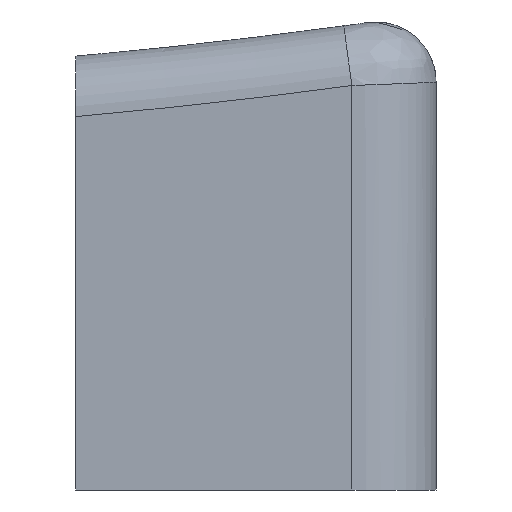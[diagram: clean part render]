
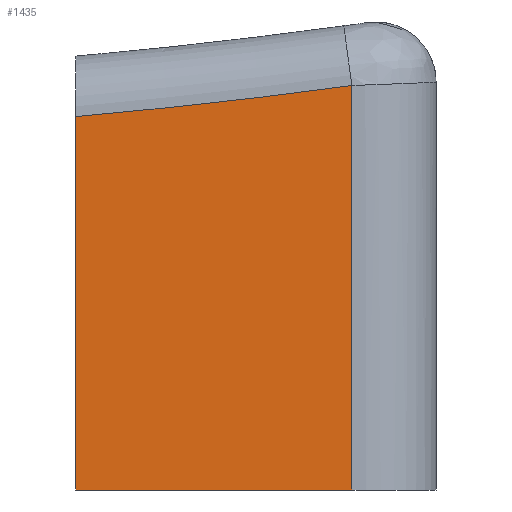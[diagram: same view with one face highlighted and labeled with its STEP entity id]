
A CAD part, front view. The second image highlights one B-rep face of the part: STEP entity #1435.
In plain terms, the highlighted planar face has unit normal (0, -1, 0).
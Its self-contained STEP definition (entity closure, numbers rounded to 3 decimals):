
#32 = PLANE('',#33);
#33 = AXIS2_PLACEMENT_3D('',#34,#35,#36);
#34 = CARTESIAN_POINT('',(90.15,-80.,-10.));
#35 = DIRECTION('',(1.,0.,-0.));
#36 = DIRECTION('',(0.,0.,1.));
#43 = PLANE('',#44);
#44 = AXIS2_PLACEMENT_3D('',#45,#46,#47);
#45 = CARTESIAN_POINT('',(-150.,-70.,0.));
#46 = DIRECTION('',(0.,0.,1.));
#47 = DIRECTION('',(1.,0.,-0.));
#192 = VERTEX_POINT('',#193);
#193 = CARTESIAN_POINT('',(90.15,-70.,62.031));
#245 = TOROIDAL_SURFACE('',#246,1010.,10.);
#246 = AXIS2_PLACEMENT_3D('',#247,#248,#249);
#247 = CARTESIAN_POINT('',(0.,-60.,1068.));
#248 = DIRECTION('',(0.,-1.,-0.));
#249 = DIRECTION('',(-0.136,0.,-0.991));
#276 = EDGE_CURVE('',#277,#192,#279,.T.);
#277 = VERTEX_POINT('',#278);
#278 = CARTESIAN_POINT('',(90.15,-70.,0.));
#279 = SURFACE_CURVE('',#280,(#284,#290),.PCURVE_S1.);
#280 = LINE('',#281,#282);
#281 = CARTESIAN_POINT('',(90.15,-70.,-5.));
#282 = VECTOR('',#283,1.);
#283 = DIRECTION('',(0.,0.,1.));
#284 = PCURVE('',#32,#285);
#285 = DEFINITIONAL_REPRESENTATION('',(#286),#289);
#286 = B_SPLINE_CURVE_WITH_KNOTS('',1,(#287,#288),.UNSPECIFIED.,.F.,.F.,
  (2,2),(5.,72.198),.PIECEWISE_BEZIER_KNOTS.);
#287 = CARTESIAN_POINT('',(10.,-10.));
#288 = CARTESIAN_POINT('',(77.198,-10.));
#289 = ( GEOMETRIC_REPRESENTATION_CONTEXT(2) 
PARAMETRIC_REPRESENTATION_CONTEXT() REPRESENTATION_CONTEXT('2D SPACE',''
  ) );
#290 = PCURVE('',#291,#296);
#291 = PLANE('',#292);
#292 = AXIS2_PLACEMENT_3D('',#293,#294,#295);
#293 = CARTESIAN_POINT('',(-150.,-70.,0.));
#294 = DIRECTION('',(-0.,1.,0.));
#295 = DIRECTION('',(0.,0.,1.));
#296 = DEFINITIONAL_REPRESENTATION('',(#297),#300);
#297 = B_SPLINE_CURVE_WITH_KNOTS('',1,(#298,#299),.UNSPECIFIED.,.F.,.F.,
  (2,2),(5.,72.198),.PIECEWISE_BEZIER_KNOTS.);
#298 = CARTESIAN_POINT('',(0.,240.15));
#299 = CARTESIAN_POINT('',(67.198,240.15));
#300 = ( GEOMETRIC_REPRESENTATION_CONTEXT(2) 
PARAMETRIC_REPRESENTATION_CONTEXT() REPRESENTATION_CONTEXT('2D SPACE',''
  ) );
#564 = EDGE_CURVE('',#277,#565,#567,.T.);
#565 = VERTEX_POINT('',#566);
#566 = CARTESIAN_POINT('',(136.,-70.,0.));
#567 = SURFACE_CURVE('',#568,(#572,#579),.PCURVE_S1.);
#568 = LINE('',#569,#570);
#569 = CARTESIAN_POINT('',(-150.,-70.,0.));
#570 = VECTOR('',#571,1.);
#571 = DIRECTION('',(1.,0.,-0.));
#572 = PCURVE('',#43,#573);
#573 = DEFINITIONAL_REPRESENTATION('',(#574),#578);
#574 = LINE('',#575,#576);
#575 = CARTESIAN_POINT('',(0.,0.));
#576 = VECTOR('',#577,1.);
#577 = DIRECTION('',(1.,0.));
#578 = ( GEOMETRIC_REPRESENTATION_CONTEXT(2) 
PARAMETRIC_REPRESENTATION_CONTEXT() REPRESENTATION_CONTEXT('2D SPACE',''
  ) );
#579 = PCURVE('',#291,#580);
#580 = DEFINITIONAL_REPRESENTATION('',(#581),#585);
#581 = LINE('',#582,#583);
#582 = CARTESIAN_POINT('',(0.,0.));
#583 = VECTOR('',#584,1.);
#584 = DIRECTION('',(0.,1.));
#585 = ( GEOMETRIC_REPRESENTATION_CONTEXT(2) 
PARAMETRIC_REPRESENTATION_CONTEXT() REPRESENTATION_CONTEXT('2D SPACE',''
  ) );
#608 = CYLINDRICAL_SURFACE('',#609,14.);
#609 = AXIS2_PLACEMENT_3D('',#610,#611,#612);
#610 = CARTESIAN_POINT('',(136.,-56.,0.));
#611 = DIRECTION('',(0.,0.,1.));
#612 = DIRECTION('',(1.,0.,-0.));
#1435 = ADVANCED_FACE('',(#1436),#291,.F.);
#1436 = FACE_BOUND('',#1437,.F.);
#1437 = EDGE_LOOP('',(#1438,#1466,#1487,#1488));
#1438 = ORIENTED_EDGE('',*,*,#1439,.T.);
#1439 = EDGE_CURVE('',#192,#1440,#1442,.T.);
#1440 = VERTEX_POINT('',#1441);
#1441 = CARTESIAN_POINT('',(136.,-70.,67.198));
#1442 = SURFACE_CURVE('',#1443,(#1448,#1459),.PCURVE_S1.);
#1443 = CIRCLE('',#1444,1010.);
#1444 = AXIS2_PLACEMENT_3D('',#1445,#1446,#1447);
#1445 = CARTESIAN_POINT('',(0.,-70.,1068.));
#1446 = DIRECTION('',(0.,-1.,-0.));
#1447 = DIRECTION('',(-0.136,0.,-0.991));
#1448 = PCURVE('',#291,#1449);
#1449 = DEFINITIONAL_REPRESENTATION('',(#1450),#1458);
#1450 = ( BOUNDED_CURVE() B_SPLINE_CURVE(2,(#1451,#1452,#1453,#1454,
#1455,#1456,#1457),.UNSPECIFIED.,.T.,.F.) B_SPLINE_CURVE_WITH_KNOTS((1,2
    ,2,2,2,1),(-2.094,0.,2.094,4.189,
6.283,8.378),.UNSPECIFIED.) CURVE() 
GEOMETRIC_REPRESENTATION_ITEM() RATIONAL_B_SPLINE_CURVE((1.,0.5,1.,0.5,
1.,0.5,1.)) REPRESENTATION_ITEM('') );
#1451 = CARTESIAN_POINT('',(67.384,12.64));
#1452 = CARTESIAN_POINT('',(-170.53,1745.758));
#1453 = CARTESIAN_POINT('',(1449.351,1085.239));
#1454 = CARTESIAN_POINT('',(3069.232,424.72));
#1455 = CARTESIAN_POINT('',(1687.265,-647.879));
#1456 = CARTESIAN_POINT('',(305.299,-1720.478));
#1457 = CARTESIAN_POINT('',(67.384,12.64));
#1458 = ( GEOMETRIC_REPRESENTATION_CONTEXT(2) 
PARAMETRIC_REPRESENTATION_CONTEXT() REPRESENTATION_CONTEXT('2D SPACE',''
  ) );
#1459 = PCURVE('',#245,#1460);
#1460 = DEFINITIONAL_REPRESENTATION('',(#1461),#1465);
#1461 = LINE('',#1462,#1463);
#1462 = CARTESIAN_POINT('',(0.,1.571));
#1463 = VECTOR('',#1464,1.);
#1464 = DIRECTION('',(1.,0.));
#1465 = ( GEOMETRIC_REPRESENTATION_CONTEXT(2) 
PARAMETRIC_REPRESENTATION_CONTEXT() REPRESENTATION_CONTEXT('2D SPACE',''
  ) );
#1466 = ORIENTED_EDGE('',*,*,#1467,.F.);
#1467 = EDGE_CURVE('',#565,#1440,#1468,.T.);
#1468 = SURFACE_CURVE('',#1469,(#1473,#1480),.PCURVE_S1.);
#1469 = LINE('',#1470,#1471);
#1470 = CARTESIAN_POINT('',(136.,-70.,0.));
#1471 = VECTOR('',#1472,1.);
#1472 = DIRECTION('',(0.,0.,1.));
#1473 = PCURVE('',#291,#1474);
#1474 = DEFINITIONAL_REPRESENTATION('',(#1475),#1479);
#1475 = LINE('',#1476,#1477);
#1476 = CARTESIAN_POINT('',(0.,286.));
#1477 = VECTOR('',#1478,1.);
#1478 = DIRECTION('',(1.,0.));
#1479 = ( GEOMETRIC_REPRESENTATION_CONTEXT(2) 
PARAMETRIC_REPRESENTATION_CONTEXT() REPRESENTATION_CONTEXT('2D SPACE',''
  ) );
#1480 = PCURVE('',#608,#1481);
#1481 = DEFINITIONAL_REPRESENTATION('',(#1482),#1486);
#1482 = LINE('',#1483,#1484);
#1483 = CARTESIAN_POINT('',(-1.571,0.));
#1484 = VECTOR('',#1485,1.);
#1485 = DIRECTION('',(-0.,1.));
#1486 = ( GEOMETRIC_REPRESENTATION_CONTEXT(2) 
PARAMETRIC_REPRESENTATION_CONTEXT() REPRESENTATION_CONTEXT('2D SPACE',''
  ) );
#1487 = ORIENTED_EDGE('',*,*,#564,.F.);
#1488 = ORIENTED_EDGE('',*,*,#276,.T.);
